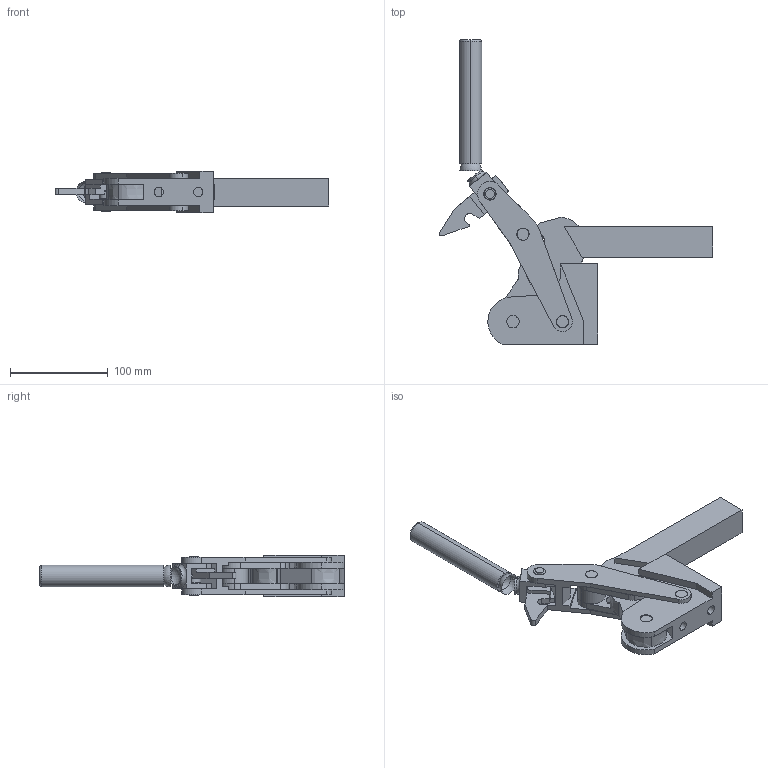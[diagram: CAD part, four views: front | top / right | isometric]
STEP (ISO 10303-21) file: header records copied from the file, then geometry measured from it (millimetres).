
FILE_DESCRIPTION( ( '' ), '1' );
FILE_NAME( 'C:\KeyCreator5.5\STEP\LYT-1036-HB.stp', ' ', ( '' ), ( '' ), 'ACIS Interop R16', 'Kubotek KeyCreator V5.5.1 (0454)', ' ' );
FILE_SCHEMA( ( 'CONFIG_CONTROL_DESIGN' ) );
Length unit declared in the file: inch
Products named in the file (14): 1; 2; 3; 4; 5; 6; 7; 8; 9; 10; 11; 12; 13; 14
Bounding box: 280.6 x 311.84 x 42.67 mm (x, y, z)
Volume: 496158 mm3; surface area: 148730.5 mm2
Topology: 14 solids, 14 shells, 259 faces, 694 edges, 462 vertices
Faces by surface type: plane 132, cylinder 108, bspline 9, torus 8, sphere 2
Entity records: 9189 total; most frequent: CARTESIAN_POINT 1864, DIRECTION 1437, ORIENTED_EDGE 1380, EDGE_CURVE 690, AXIS2_PLACEMENT_3D 521, VERTEX_POINT 462, LINE 395, VECTOR 395
